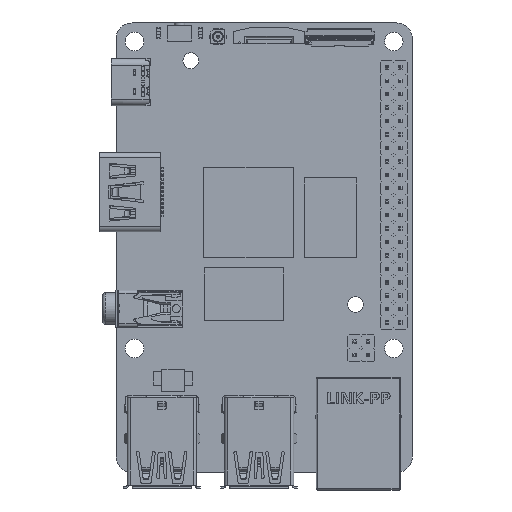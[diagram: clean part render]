
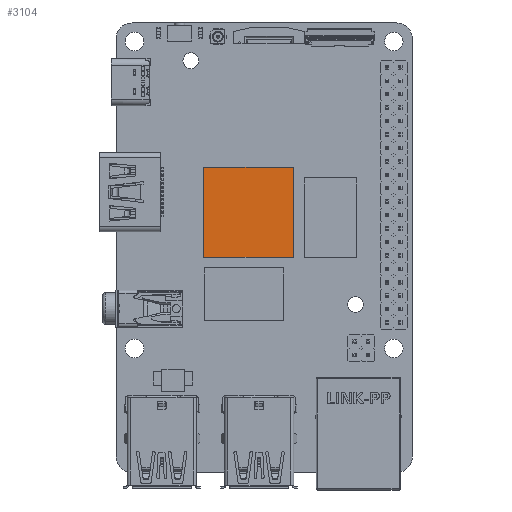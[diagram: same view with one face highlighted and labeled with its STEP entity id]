
A CAD part, top view. The second image highlights one B-rep face of the part: STEP entity #3104.
In plain terms, the highlighted planar face has unit normal (0, 0, 1).
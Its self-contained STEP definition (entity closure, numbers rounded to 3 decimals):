
#1620=DIRECTION('',(-1.,0.,0.));
#1621=VECTOR('',#1620,17.);
#1622=CARTESIAN_POINT('',(6.024,-14.584,1.5));
#1623=LINE('',#1622,#1621);
#1624=DIRECTION('',(0.,1.,0.));
#1625=VECTOR('',#1624,17.);
#1626=CARTESIAN_POINT('',(6.024,-31.584,1.5));
#1627=LINE('',#1626,#1625);
#1628=DIRECTION('',(1.,0.,0.));
#1629=VECTOR('',#1628,17.);
#1630=CARTESIAN_POINT('',(-10.976,-31.584,1.5));
#1631=LINE('',#1630,#1629);
#1632=DIRECTION('',(0.,-1.,0.));
#1633=VECTOR('',#1632,17.);
#1634=CARTESIAN_POINT('',(-10.976,-14.584,1.5));
#1635=LINE('',#1634,#1633);
#2096=CARTESIAN_POINT('',(6.024,-14.584,1.5));
#2097=CARTESIAN_POINT('',(-10.976,-14.584,1.5));
#2098=VERTEX_POINT('',#2096);
#2099=VERTEX_POINT('',#2097);
#2100=CARTESIAN_POINT('',(-10.976,-31.584,1.5));
#2101=VERTEX_POINT('',#2100);
#2102=CARTESIAN_POINT('',(6.024,-31.584,1.5));
#2103=VERTEX_POINT('',#2102);
#3093=CARTESIAN_POINT('',(0.,0.,1.5));
#3094=DIRECTION('',(0.,0.,1.));
#3095=DIRECTION('',(0.,-1.,0.));
#3096=AXIS2_PLACEMENT_3D('',#3093,#3094,#3095);
#3097=PLANE('',#3096);
#3098=ORIENTED_EDGE('',*,*,#3024,.F.);
#3099=ORIENTED_EDGE('',*,*,#3050,.F.);
#3100=ORIENTED_EDGE('',*,*,#3075,.F.);
#3101=ORIENTED_EDGE('',*,*,#2997,.F.);
#3102=EDGE_LOOP('',(#3098,#3099,#3100,#3101));
#3103=FACE_OUTER_BOUND('',#3102,.F.);
#3104=ADVANCED_FACE('',(#3103),#3097,.T.);
#2997=EDGE_CURVE('',#2099,#2101,#1635,.T.);
#3024=EDGE_CURVE('',#2098,#2099,#1623,.T.);
#3050=EDGE_CURVE('',#2103,#2098,#1627,.T.);
#3075=EDGE_CURVE('',#2101,#2103,#1631,.T.);
